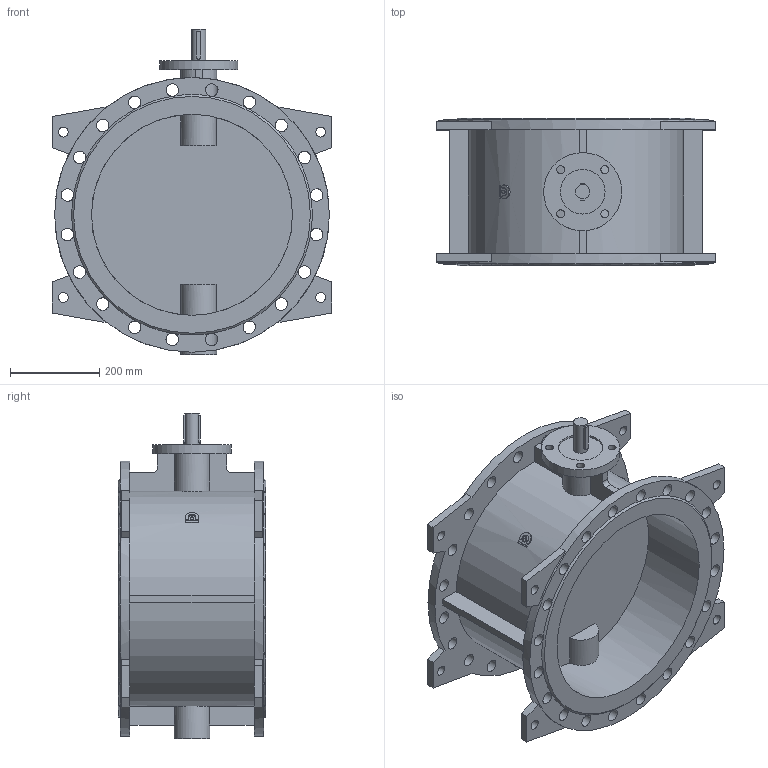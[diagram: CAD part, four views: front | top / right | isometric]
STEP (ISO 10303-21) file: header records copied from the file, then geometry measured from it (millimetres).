
FILE_DESCRIPTION(('STEP AP203'), '1');
FILE_NAME('Çàòâîð 023F.Z DN450 PN10 ïîä èñïîëíèòåëüíûé ìåõàíèçì', '', ('UNSPECIFIED'), ('UNSPECIFIED'), 'ASCON STEP Converter 1.6', 'ASCON Math Kernel', '');
FILE_SCHEMA(('CONFIG_CONTROL_DESIGN'));
Length unit declared in the file: millimetre
Bounding box: 626 x 330 x 728 mm (x, y, z)
Volume: 22815021.6 mm3; surface area: 2065670.1 mm2
Topology: 1 solids, 1 shells, 166 faces, 573 edges, 382 vertices
Faces by surface type: plane 85, cylinder 79, cone 2
Full cylindrical faces by diameter (mm): 18 x4, 22 x8, 28 x40, 32 x1, 80 x1, 100 x1, 175 x1, 450 x2, 615 x2
Entity records: 10426 total; most frequent: CARTESIAN_POINT 4034, DIRECTION 1038, ORIENTED_EDGE 1020, EDGE_CURVE 510, AXIS2_PLACEMENT_3D 420, VERTEX_POINT 382, EDGE_LOOP 306, CIRCLE 253
